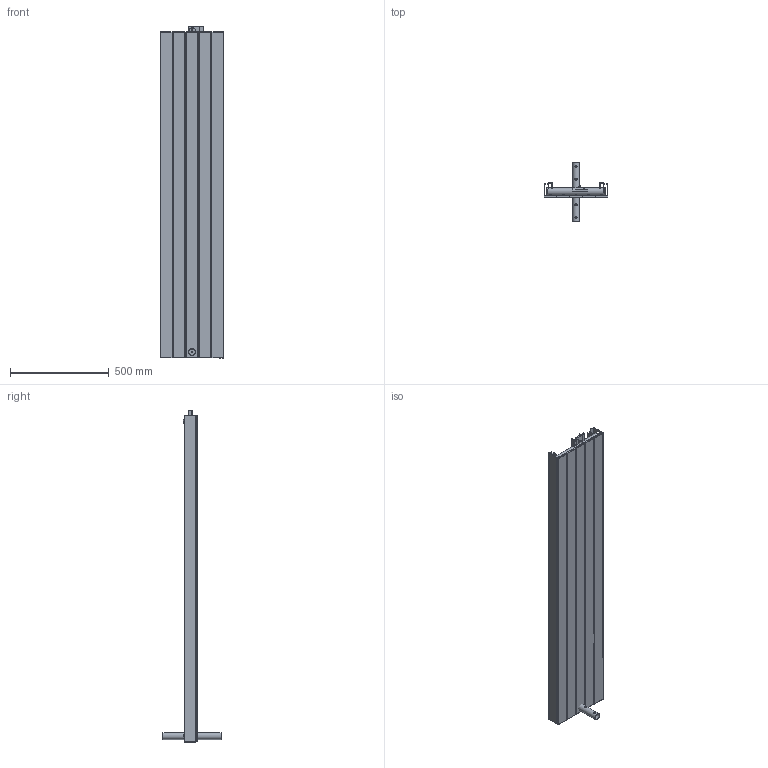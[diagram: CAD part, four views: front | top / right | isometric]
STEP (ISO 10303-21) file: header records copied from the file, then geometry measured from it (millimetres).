
FILE_DESCRIPTION( ( 'Unknown' ), '1' );
FILE_NAME( 'D:/Alplast sp. j/Witryna zespoBu - Projekty/Archiwum/Grzejniki Archiwum/Projekty/DESIGN PROGRAM/GRZEJNIK CAJA/CAJA 1.stp', 'Unknown', ( 'Unknown' ), ( 'Unknown' ), 'PSStep 10.1', 'Unknown', ' ' );
FILE_SCHEMA( ( 'AUTOMOTIVE_DESIGN { 1 0 10303 214 1 1 1 1 }' ) );
Length unit declared in the file: millimetre
Products named in the file (27): Assem1; CAJA kolektor 320 D-50; mufka; mufka-oa0; Zaslepka fi 35; Zaslepka fi 35-oa1; Zaslepka fi 35-oa2; rura 60x10  1650; rura 60x10  1650-oa3; rura 60x10  1650-oa4; rura 60x10  1650-oa5; rura 60x10  1650-oa6; CAJA kolektor 320; Zaslepka fi 35 z gwintem ; os³ona boczna z otworem; os³ona boczna; radiator tylny; radiator tylny-oa7; radiator tylny-oa8; radiator tylny-oa9; radiator tylny-oa10; radiator tylny-oa11; prêt wzmacniaj¹cy caja 1,3; mocowanie ceownik; mocowanie ceownik-oa12; mocowanie ceownik-oa13; mocowanie ceownik-oa14
Bounding box: 320 x 296 x 1680 mm (x, y, z)
Volume: 4826688.5 mm3; surface area: 7829363 mm2
Topology: 52 solids, 52 shells, 992 faces, 2452 edges, 1524 vertices
Faces by surface type: plane 508, cylinder 324, sphere 80, cone 40, extrusion 20, torus 16, bspline 4
Full cylindrical faces by diameter (mm): 6.023 x20, 8 x20, 15 x4, 18.631 x2, 19 x4, 25 x12, 32 x6, 35 x12
Entity records: 23198 total; most frequent: CARTESIAN_POINT 7765, DIRECTION 2332, ORIENTED_EDGE 2100, EDGE_CURVE 1050, AXIS2_PLACEMENT_3D 861, VERTEX_POINT 710, EDGE_LOOP 646, VECTOR 610
